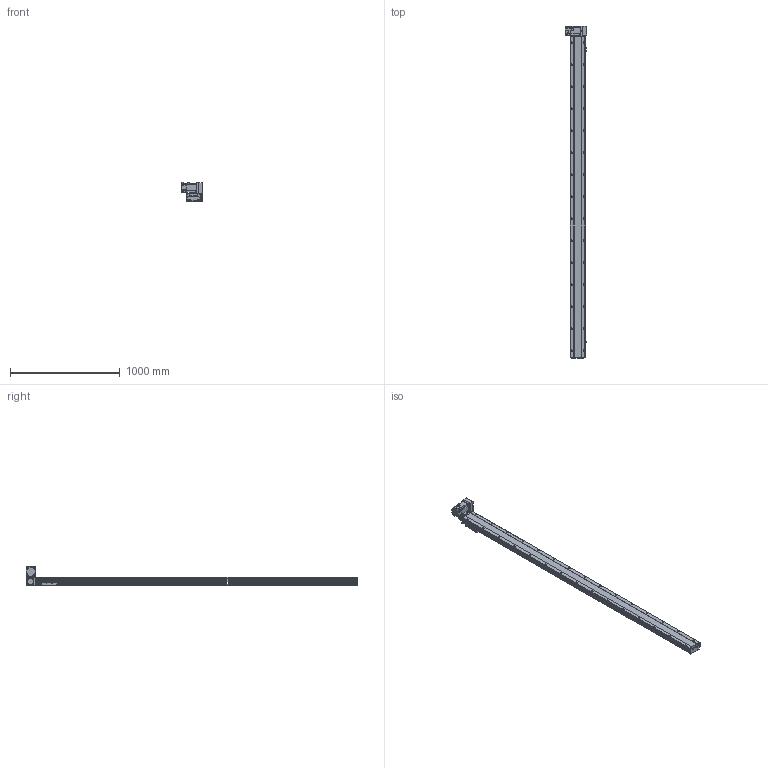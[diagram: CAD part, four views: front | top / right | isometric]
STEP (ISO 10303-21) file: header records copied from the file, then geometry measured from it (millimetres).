
FILE_DESCRIPTION (( 'STEP AP203' ), '1' );
FILE_NAME ('53.STEP', '2020-10-27T11:29:06', ( '' ), ( '' ), 'SwSTEP 2.0', 'SolidWorks 2016', '' );
FILE_SCHEMA (( 'CONFIG_CONTROL_DESIGN' ));
Length unit declared in the file: millimetre
Products named in the file (12): BTB14-RD-24; BTB14-RD-HZ; FS-33-T75; BTB14-RD-06; BTB14-RD-01; FS-08-T75; BTB14-RD-T75; 53; BTB14-RD-04; BTB14-RD-菁釱; BTB14-RD-23; FS-07-T75
Assembly tree (14 placements, depth 2):
  53
    BTB14-RD-菁釱
    BTB14-RD-01
    BTB14-RD-04  x3
    BTB14-RD-06
    BTB14-RD-23  x2
    BTB14-RD-24
    BTB14-RD-HZ
    FS-07-T75
    FS-08-T75
    FS-33-T75
    BTB14-RD-T75
Bounding box: 191.8 x 3018 x 176.1 mm (x, y, z)
Volume: 13364030.3 mm3; surface area: 2693839.3 mm2
Topology: 24 solids, 24 shells, 1882 faces, 4955 edges, 3160 vertices
Faces by surface type: plane 1033, cylinder 554, cone 156, bspline 127, torus 12
Entity records: 55584 total; most frequent: CARTESIAN_POINT 16855, ORIENTED_EDGE 7768, DIRECTION 7582, EDGE_CURVE 3884, LINE 2576, VECTOR 2576, VERTEX_POINT 2538, AXIS2_PLACEMENT_3D 2503
